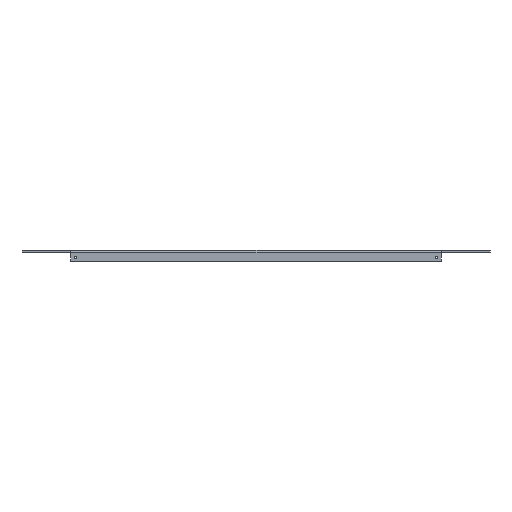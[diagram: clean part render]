
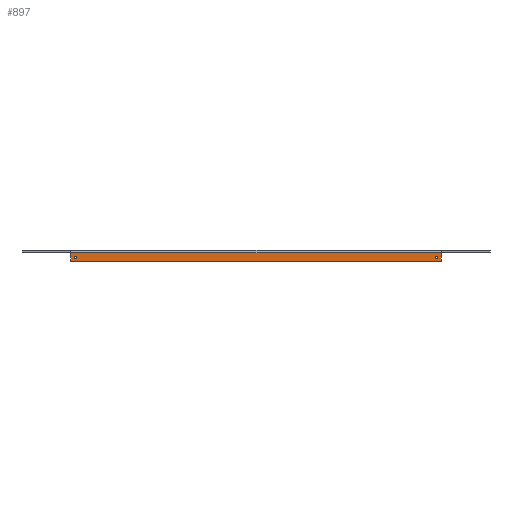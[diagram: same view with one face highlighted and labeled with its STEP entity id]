
A CAD part, left-side view. The second image highlights one B-rep face of the part: STEP entity #897.
In plain terms, the highlighted planar face has unit normal (-1, 0, 0).
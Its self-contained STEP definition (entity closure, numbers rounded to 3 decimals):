
#784=CARTESIAN_POINT('',(695.,3688.5,683.5));
#785=VERTEX_POINT('',#784);
#792=CARTESIAN_POINT('',(695.,4478.5,683.5));
#793=VERTEX_POINT('',#792);
#794=CARTESIAN_POINT('',(695.,4478.5,683.5));
#795=DIRECTION('',(-0.,-1.,-0.));
#796=VECTOR('',#795,790.);
#797=LINE('',#794,#796);
#798=EDGE_CURVE('',#793,#785,#797,.T.);
#809=CARTESIAN_POINT('',(695.,3593.5,700.));
#810=DIRECTION('',(-1.,0.,0.));
#811=DIRECTION('',(-0.,-1.,-0.));
#812=AXIS2_PLACEMENT_3D('',#809,#810,#811);
#813=PLANE('',#812);
#814=CARTESIAN_POINT('',(695.,4469.5,689.9));
#815=VERTEX_POINT('',#814);
#816=CARTESIAN_POINT('',(695.,4466.9,692.5));
#817=VERTEX_POINT('',#816);
#818=CARTESIAN_POINT('',(695.,4469.5,692.5));
#819=DIRECTION('',(-1.,0.,0.));
#820=DIRECTION('',(-0.,-1.,0.));
#821=AXIS2_PLACEMENT_3D('',#818,#819,#820);
#822=CIRCLE('',#821,2.6);
#823=EDGE_CURVE('',#815,#817,#822,.T.);
#824=ORIENTED_EDGE('',*,*,#823,.F.);
#825=CARTESIAN_POINT('',(695.,4469.5,692.5));
#826=DIRECTION('',(-1.,0.,0.));
#827=DIRECTION('',(-0.,-1.,0.));
#828=AXIS2_PLACEMENT_3D('',#825,#826,#827);
#829=CIRCLE('',#828,2.6);
#830=EDGE_CURVE('',#817,#815,#829,.T.);
#831=ORIENTED_EDGE('',*,*,#830,.F.);
#832=EDGE_LOOP('',(#824,#831));
#833=FACE_BOUND('',#832,.T.);
#834=CARTESIAN_POINT('',(695.,3697.5,689.9));
#835=VERTEX_POINT('',#834);
#836=CARTESIAN_POINT('',(695.,3694.9,692.5));
#837=VERTEX_POINT('',#836);
#838=CARTESIAN_POINT('',(695.,3697.5,692.5));
#839=DIRECTION('',(-1.,0.,0.));
#840=DIRECTION('',(-0.,-1.,0.));
#841=AXIS2_PLACEMENT_3D('',#838,#839,#840);
#842=CIRCLE('',#841,2.6);
#843=EDGE_CURVE('',#835,#837,#842,.T.);
#844=ORIENTED_EDGE('',*,*,#843,.F.);
#845=CARTESIAN_POINT('',(695.,3697.5,692.5));
#846=DIRECTION('',(-1.,0.,0.));
#847=DIRECTION('',(-0.,-1.,0.));
#848=AXIS2_PLACEMENT_3D('',#845,#846,#847);
#849=CIRCLE('',#848,2.6);
#850=EDGE_CURVE('',#837,#835,#849,.T.);
#851=ORIENTED_EDGE('',*,*,#850,.F.);
#852=EDGE_LOOP('',(#844,#851));
#853=FACE_BOUND('',#852,.T.);
#854=CARTESIAN_POINT('',(695.,3687.5,702.5));
#855=VERTEX_POINT('',#854);
#856=CARTESIAN_POINT('',(695.,3687.5,684.5));
#857=VERTEX_POINT('',#856);
#858=CARTESIAN_POINT('',(695.,3687.5,702.5));
#859=DIRECTION('',(0.,0.,-1.));
#860=VECTOR('',#859,18.);
#861=LINE('',#858,#860);
#862=EDGE_CURVE('',#855,#857,#861,.T.);
#863=ORIENTED_EDGE('',*,*,#862,.F.);
#864=CARTESIAN_POINT('',(695.,4479.5,702.5));
#865=VERTEX_POINT('',#864);
#866=CARTESIAN_POINT('',(695.,3687.5,702.5));
#867=DIRECTION('',(0.,1.,0.));
#868=VECTOR('',#867,792.);
#869=LINE('',#866,#868);
#870=EDGE_CURVE('',#855,#865,#869,.T.);
#871=ORIENTED_EDGE('',*,*,#870,.T.);
#872=CARTESIAN_POINT('',(695.,4479.5,684.5));
#873=VERTEX_POINT('',#872);
#874=CARTESIAN_POINT('',(695.,4479.5,702.5));
#875=DIRECTION('',(0.,0.,-1.));
#876=VECTOR('',#875,18.);
#877=LINE('',#874,#876);
#878=EDGE_CURVE('',#865,#873,#877,.T.);
#879=ORIENTED_EDGE('',*,*,#878,.T.);
#880=CARTESIAN_POINT('',(695.,4478.5,684.5));
#881=DIRECTION('',(-1.,0.,0.));
#882=DIRECTION('',(-0.,-1.,0.));
#883=AXIS2_PLACEMENT_3D('',#880,#881,#882);
#884=CIRCLE('',#883,1.);
#885=EDGE_CURVE('',#873,#793,#884,.T.);
#886=ORIENTED_EDGE('',*,*,#885,.T.);
#887=ORIENTED_EDGE('',*,*,#798,.T.);
#888=CARTESIAN_POINT('',(695.,3688.5,684.5));
#889=DIRECTION('',(-1.,0.,0.));
#890=DIRECTION('',(-0.,-1.,0.));
#891=AXIS2_PLACEMENT_3D('',#888,#889,#890);
#892=CIRCLE('',#891,1.);
#893=EDGE_CURVE('',#785,#857,#892,.T.);
#894=ORIENTED_EDGE('',*,*,#893,.T.);
#895=EDGE_LOOP('',(#863,#871,#879,#886,#887,#894));
#896=FACE_BOUND('',#895,.T.);
#897=ADVANCED_FACE('',(#833,#853,#896),#813,.T.);
